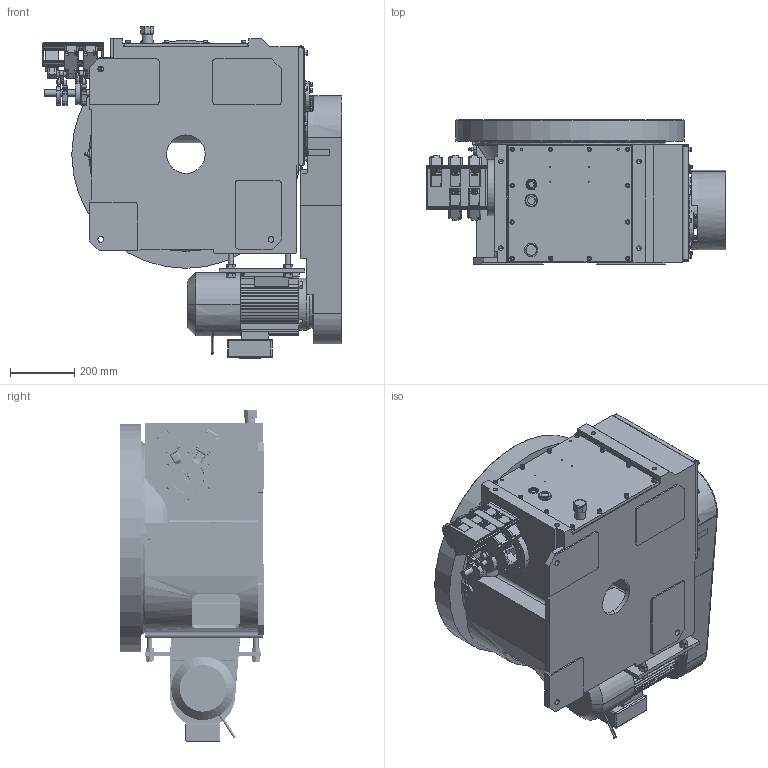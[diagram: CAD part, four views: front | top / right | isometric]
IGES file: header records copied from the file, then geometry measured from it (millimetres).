
Start section:  PTC IGES file: a5861.igs
Global section: file name: a5861.igs; native system: Pro/ENGINEER by Parametric Technology Corporation; preprocessor: 2001040; author: Mueller; organization: Unknown; date: 040917.135956; units: millimetre
Bounding box: 932.1 x 450 x 1033 mm (x, y, z)
Surface area: 7141028.1 mm2 (no closed solid volume)
Topology: 0 solids, 0 shells, 2827 faces, 25096 edges, 25011 vertices
Faces by surface type: bspline 1576, revolution 1251
